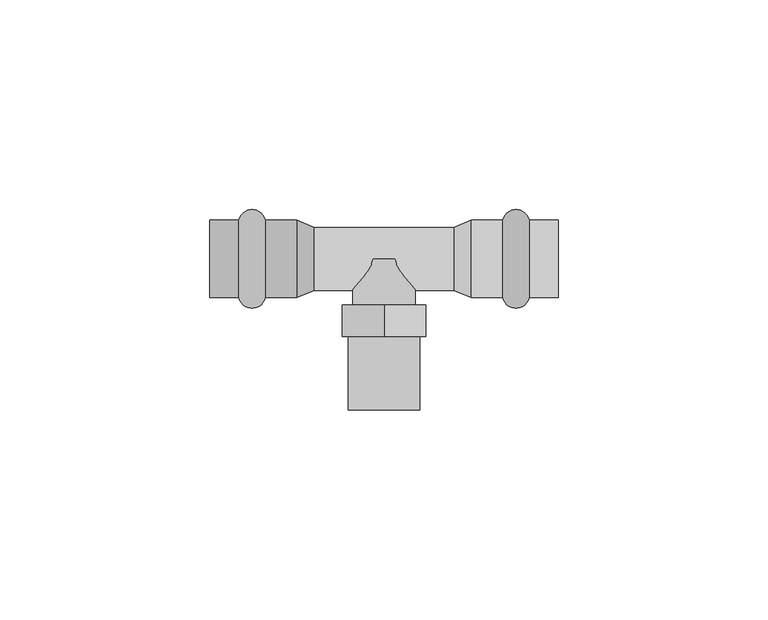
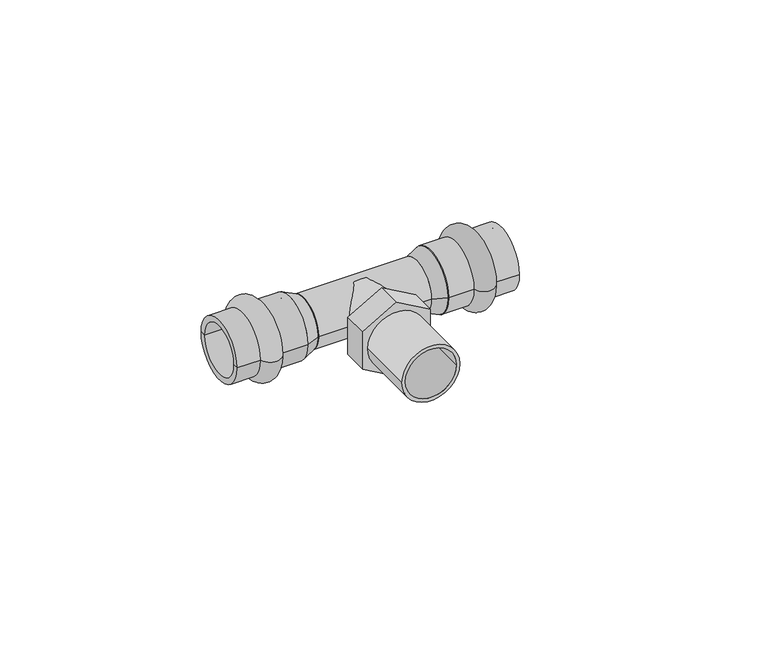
"""IFC4 building model written with IfcOpenShell, lengths in millimetres: pipe fitting geometry, VALTEC_VTi.933.I_Тройник с переходом на наружную  резьбу нержавеющая сталь : VTi.933.I."""

from ifc_helpers import new_model, si_unit, point, frame, origin, origin_2d, place, context, project, spatial, polyline, circle_curve, ellipse_curve, trimmed, segment, composite_curve, outline, extrude, source, transform, mapped, element, save
from ifc_brep_helpers import plane_surface, cylinder_surface, revolved_surface, advanced_brep


def pipe_fitting_f7734ca4(model_context):
    return source(origin(), model_context, "Body", "SolidModel", [
        advanced_brep(
        [(34.6122777, 9.25, 0.0), (34.6122777, -9.25, 0.0), (28.2877223, -9.25, 0.0), (28.2877223, 9.25, 0.0), (41.5, 9.25, 0.0), (41.5, -9.25, 0.0), (41.5, 7.5, 0.0), (41.5, -7.5, 0.0), (20.75, 7.5, 0.0), (20.75, -7.5, 0.0), (20.75, 9.25, 0.0), (20.75, -9.25, 0.0)],
        [
            (0, 1, circle_curve(frame((34.6122777, 0.0, 0.0), z_axis=(-1.0, 0.0, 0.0), x_axis=(0.0, -1.0, 0.0)), 9.25)),
            (1, 2, circle_curve(frame((31.45, -8.5, 0.0), z_axis=(0.0, 0.0, -1.0), x_axis=(-1.0, 0.0, 0.0)), 3.25)),
            (2, 3, circle_curve(frame((28.2877223, 0.0, 0.0), z_axis=(1.0, 0.0, 0.0), x_axis=(0.0, -1.0, 0.0)), 9.25)),
            (3, 0, circle_curve(frame((31.45, 8.5, 0.0), z_axis=(0.0, 0.0, -1.0), x_axis=(-1.0, 0.0, 0.0)), 3.25)),
            (1, 0, circle_curve(frame((34.6122777, 0.0, 0.0), z_axis=(-1.0, 0.0, 0.0), x_axis=(0.0, -1.0, 0.0)), 9.25)),
            (3, 2, circle_curve(frame((28.2877223, 0.0, 0.0), z_axis=(1.0, 0.0, 0.0), x_axis=(0.0, -1.0, 0.0)), 9.25)),
            (4, 5, circle_curve(frame((41.5, 0.0, 0.0), z_axis=(-1.0, 0.0, 0.0), x_axis=(0.0, -1.0, 0.0)), 9.25)),
            (5, 1),
            (0, 4),
            (5, 4, circle_curve(frame((41.5, 0.0, 0.0), z_axis=(-1.0, 0.0, 0.0), x_axis=(0.0, -1.0, 0.0)), 9.25)),
            (6, 7, circle_curve(frame((41.5, 0.0, 0.0), z_axis=(-1.0, 0.0, 0.0), x_axis=(0.0, -1.0, 0.0)), 7.5)),
            (7, 5),
            (4, 6),
            (7, 6, circle_curve(frame((41.5, 0.0, 0.0), z_axis=(-1.0, 0.0, 0.0), x_axis=(0.0, -1.0, 0.0)), 7.5)),
            (8, 9, circle_curve(frame((20.75, 0.0, 0.0), z_axis=(-1.0, 0.0, 0.0), x_axis=(0.0, -1.0, 0.0)), 7.5)),
            (9, 7),
            (6, 8),
            (9, 8, circle_curve(frame((20.75, 0.0, 0.0), z_axis=(-1.0, 0.0, 0.0), x_axis=(0.0, -1.0, 0.0)), 7.5)),
            (10, 11, circle_curve(frame((20.75, 0.0, 0.0), z_axis=(-1.0, 0.0, 0.0), x_axis=(0.0, -1.0, 0.0)), 9.25)),
            (11, 9),
            (8, 10),
            (11, 10, circle_curve(frame((20.75, 0.0, 0.0), z_axis=(-1.0, 0.0, 0.0), x_axis=(0.0, -1.0, 0.0)), 9.25)),
            (2, 11),
            (10, 3),
        ],
        [
            revolved_surface(trimmed(ellipse_curve(frame((31.45, -8.5, 0.0), z_axis=(0.0, 0.0, 1.0), x_axis=(-1.0, 0.0, 0.0)), 3.25, 3.25), [point((28.2877223, -9.25, 0.0))], [point((34.6122777, -9.25, 0.0))], True, "CARTESIAN"), (45.0364426, 0.0, 0.0), (1.0, 0.0, 0.0)),
            cylinder_surface(frame((45.0364426, 0.0, 0.0), z_axis=(1.0, 0.0, 0.0), x_axis=(0.0, -1.0, 0.0)), 9.25),
            plane_surface(frame((41.5, 0.0, 0.0), z_axis=(1.0, 0.0, 0.0), x_axis=(0.0, -1.0, 0.0))),
            revolved_surface(polyline([(41.5, -7.5, 0.0), (20.75, -7.5, 0.0)]), (45.0364426, 0.0, 0.0), (1.0, 0.0, 0.0)),
            plane_surface(frame((20.75, 0.0, 0.0), z_axis=(-1.0, 0.0, 0.0), x_axis=(0.0, -1.0, 0.0))),
        ],
        [
            (0, [[1, 2, 3, 4]]),
            (0, [[5, -4, 6, -2]]),
            (1, [[7, 8, -1, 9]]),
            (1, [[10, -9, -5, -8]]),
            (2, [[11, 12, -7, 13]]),
            (2, [[14, -13, -10, -12]]),
            (3, [[15, 16, -11, 17]]),
            (3, [[18, -17, -14, -16]]),
            (4, [[19, 20, -15, 21]]),
            (4, [[22, -21, -18, -20]]),
            (1, [[-3, 23, -19, 24]]),
            (1, [[-6, -24, -22, -23]]),
        ],
    ),
        advanced_brep(
        [(-34.6122777, -9.25, 0.0), (-34.6122777, 9.25, 0.0), (-28.2877223, 9.25, 0.0), (-28.2877223, -9.25, 0.0), (-41.5, -9.25, 0.0), (-41.5, 9.25, 0.0), (-41.5, -7.5, 0.0), (-41.5, 7.5, 0.0), (-20.75, -7.5, 0.0), (-20.75, 7.5, 0.0), (-20.75, -9.25, 0.0), (-20.75, 9.25, 0.0)],
        [
            (0, 1, circle_curve(frame((-34.6122777, 0.0, 0.0), z_axis=(1.0, 0.0, 0.0), x_axis=(0.0, 1.0, 0.0)), 9.25)),
            (1, 2, circle_curve(frame((-31.45, 8.5, 0.0), z_axis=(0.0, 0.0, -1.0), x_axis=(1.0, 0.0, 0.0)), 3.25)),
            (2, 3, circle_curve(frame((-28.2877223, 0.0, 0.0), z_axis=(-1.0, 0.0, 0.0), x_axis=(0.0, 1.0, 0.0)), 9.25)),
            (3, 0, circle_curve(frame((-31.45, -8.5, 0.0), z_axis=(0.0, 0.0, -1.0), x_axis=(1.0, 0.0, 0.0)), 3.25)),
            (1, 0, circle_curve(frame((-34.6122777, 0.0, 0.0), z_axis=(1.0, 0.0, 0.0), x_axis=(0.0, 1.0, 0.0)), 9.25)),
            (3, 2, circle_curve(frame((-28.2877223, 0.0, 0.0), z_axis=(-1.0, 0.0, 0.0), x_axis=(0.0, 1.0, 0.0)), 9.25)),
            (4, 5, circle_curve(frame((-41.5, 0.0, 0.0), z_axis=(1.0, 0.0, 0.0), x_axis=(0.0, 1.0, 0.0)), 9.25)),
            (5, 1),
            (0, 4),
            (5, 4, circle_curve(frame((-41.5, 0.0, 0.0), z_axis=(1.0, 0.0, 0.0), x_axis=(0.0, 1.0, 0.0)), 9.25)),
            (6, 7, circle_curve(frame((-41.5, 0.0, 0.0), z_axis=(1.0, 0.0, 0.0), x_axis=(0.0, 1.0, 0.0)), 7.5)),
            (7, 5),
            (4, 6),
            (7, 6, circle_curve(frame((-41.5, 0.0, 0.0), z_axis=(1.0, 0.0, 0.0), x_axis=(0.0, 1.0, 0.0)), 7.5)),
            (8, 9, circle_curve(frame((-20.75, 0.0, 0.0), z_axis=(1.0, 0.0, 0.0), x_axis=(0.0, 1.0, 0.0)), 7.5)),
            (9, 7),
            (6, 8),
            (9, 8, circle_curve(frame((-20.75, 0.0, 0.0), z_axis=(1.0, 0.0, 0.0), x_axis=(0.0, 1.0, 0.0)), 7.5)),
            (10, 11, circle_curve(frame((-20.75, 0.0, 0.0), z_axis=(1.0, 0.0, 0.0), x_axis=(0.0, 1.0, 0.0)), 9.25)),
            (11, 9),
            (8, 10),
            (11, 10, circle_curve(frame((-20.75, 0.0, 0.0), z_axis=(1.0, 0.0, 0.0), x_axis=(0.0, 1.0, 0.0)), 9.25)),
            (2, 11),
            (10, 3),
        ],
        [
            revolved_surface(trimmed(ellipse_curve(frame((-31.45, 8.5, 0.0), z_axis=(0.0, 0.0, 1.0), x_axis=(1.0, 0.0, 0.0)), 3.25, 3.25), [point((-28.2877223, 9.25, 0.0))], [point((-34.6122777, 9.25, 0.0))], True, "CARTESIAN"), (-45.0364426, 0.0, 0.0), (-1.0, 0.0, 0.0)),
            cylinder_surface(frame((-45.0364426, 0.0, 0.0), z_axis=(-1.0, 0.0, 0.0), x_axis=(0.0, 1.0, 0.0)), 9.25),
            plane_surface(frame((-41.5, 0.0, 0.0), z_axis=(-1.0, 0.0, 0.0), x_axis=(0.0, 1.0, 0.0))),
            revolved_surface(polyline([(-41.5, 7.5, 0.0), (-20.75, 7.5, 0.0)]), (-45.0364426, 0.0, 0.0), (-1.0, 0.0, 0.0)),
            plane_surface(frame((-20.75, 0.0, 0.0), z_axis=(1.0, 0.0, 0.0), x_axis=(0.0, 1.0, 0.0))),
        ],
        [
            (0, [[1, 2, 3, 4]]),
            (0, [[5, -4, 6, -2]]),
            (1, [[7, 8, -1, 9]]),
            (1, [[10, -9, -5, -8]]),
            (2, [[11, 12, -7, 13]]),
            (2, [[14, -13, -10, -12]]),
            (3, [[15, 16, -11, 17]]),
            (3, [[18, -17, -14, -16]]),
            (4, [[19, 20, -15, 21]]),
            (4, [[22, -21, -18, -20]]),
            (1, [[-3, 23, -19, 24]]),
            (1, [[-6, -24, -22, -23]]),
        ],
    ),
        extrude(outline(composite_curve([segment(trimmed(circle_curve(origin_2d(), 8.5), [point((0.0, -8.5))], [point((0.0, 8.5))], False, "CARTESIAN"), True, "CONTINUOUS"), segment(trimmed(circle_curve(origin_2d(), 8.5), [point((0.0, 8.5))], [point((0.0, -8.5))], False, "CARTESIAN"), True, "CONTINUOUS")], self_intersect=False), holes=[composite_curve([segment(trimmed(circle_curve(origin_2d(), 7.5), [point((0.0, -7.5))], [point((0.0, 7.5))], True, "CARTESIAN"), True, "CONTINUOUS"), segment(trimmed(circle_curve(origin_2d(), 7.5), [point((0.0, 7.5))], [point((0.0, -7.5))], True, "CARTESIAN"), True, "CONTINUOUS")], self_intersect=False)]), frame((0.0, -36.0, 0.0), z_axis=(0.0, 1.0, 0.0), x_axis=(0.0, 0.0, 1.0)), (0.0, 0.0, 1.0), 17.5),
        extrude(outline(polyline([(11.5470054, 0.0), (5.7735027, -10.0), (-5.7735027, -10.0), (-11.5470054, 0.0), (-5.7735027, 10.0), (5.7735027, 10.0), (11.5470054, 0.0)]), holes=[composite_curve([segment(trimmed(circle_curve(origin_2d(), 7.5), [point((0.0, -7.5))], [point((0.0, 7.5))], True, "CARTESIAN"), True, "CONTINUOUS"), segment(trimmed(circle_curve(origin_2d(), 7.5), [point((0.0, 7.5))], [point((0.0, -7.5))], True, "CARTESIAN"), True, "CONTINUOUS")], self_intersect=False)]), frame((0.0, -18.5, 0.0), z_axis=(0.0, 1.0, 0.0), x_axis=(0.0, 0.0, 1.0)), (0.0, 0.0, 1.0), 7.5),
        extrude(outline(composite_curve([segment(trimmed(circle_curve(origin_2d(), 7.5), [point((0.0, -7.5))], [point((0.0, 7.5))], False, "CARTESIAN"), True, "CONTINUOUS"), segment(trimmed(circle_curve(origin_2d(), 7.5), [point((0.0, 7.5))], [point((0.0, -7.5))], False, "CARTESIAN"), True, "CONTINUOUS")], self_intersect=False)), frame((0.0, -11.0, 0.0), z_axis=(0.0, 1.0, 0.0), x_axis=(0.0, 0.0, 1.0)), (0.0, 0.0, 1.0), 11.0),
        extrude(outline(composite_curve([segment(trimmed(circle_curve(origin_2d(), 7.5), [point((-7.5, 0.0))], [point((7.5, 0.0))], False, "CARTESIAN"), True, "CONTINUOUS"), segment(trimmed(circle_curve(origin_2d(), 7.5), [point((7.5, 0.0))], [point((-7.5, 0.0))], False, "CARTESIAN"), True, "CONTINUOUS")], self_intersect=False)), frame((-16.6, 0.0, 0.0), z_axis=(1.0, 0.0, 0.0), x_axis=(0.0, 1.0, 0.0)), (0.0, 0.0, 1.0), 33.2),
        advanced_brep(
        [(20.75, -9.25, 0.0), (20.75, 9.25, 0.0), (16.6, -7.5, 0.0), (16.6, 7.5, 0.0)],
        [
            (0, 1, circle_curve(frame((20.75, 0.0, 0.0), z_axis=(1.0, 0.0, 0.0), x_axis=(0.0, -1.0, 0.0)), 9.25)),
            (1, 0, circle_curve(frame((20.75, 0.0, 0.0), z_axis=(1.0, 0.0, 0.0), x_axis=(0.0, 1.0, 0.0)), 9.25)),
            (2, 3, circle_curve(frame((16.6, 0.0, 0.0), z_axis=(-1.0, 0.0, 0.0), x_axis=(0.0, 1.0, 0.0)), 7.5)),
            (3, 2, circle_curve(frame((16.6, 0.0, 0.0), z_axis=(-1.0, 0.0, 0.0), x_axis=(0.0, -1.0, 0.0)), 7.5)),
            (3, 1),
            (0, 2),
        ],
        [
            plane_surface(frame((20.75, 0.0, 0.0), z_axis=(1.0, 0.0, 0.0), x_axis=(0.0, 0.0, 1.0))),
            plane_surface(frame((16.6, 0.0, 0.0), z_axis=(-1.0, 0.0, 0.0), x_axis=(0.0, 0.0, 1.0))),
            revolved_surface(polyline([(16.6, 7.500000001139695, 0.0), (20.75, 9.25, 0.0)]), (-1.1857143, 0.0, 0.0), (1.0, 0.0, 0.0)),
            revolved_surface(polyline([(16.6, -7.500000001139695, 0.0), (20.75, -9.25, 0.0)]), (-1.1857143, 0.0, 0.0), (1.0, 0.0, 0.0)),
        ],
        [
            (0, [[1, 2]]),
            (1, [[3, 4]]),
            (2, [[-4, 5, -1, 6]]),
            (3, [[-3, -6, -2, -5]]),
        ],
    ),
        advanced_brep(
        [(-20.75, -9.25, 0.0), (-20.75, 9.25, 0.0), (-16.6, -7.5, 0.0), (-16.6, 7.5, 0.0)],
        [
            (0, 1, circle_curve(frame((-20.75, 0.0, 0.0), z_axis=(-1.0, 0.0, 0.0), x_axis=(0.0, -1.0, 0.0)), 9.25)),
            (1, 0, circle_curve(frame((-20.75, 0.0, 0.0), z_axis=(-1.0, 0.0, 0.0), x_axis=(0.0, 1.0, 0.0)), 9.25)),
            (2, 3, circle_curve(frame((-16.6, 0.0, 0.0), z_axis=(1.0, 0.0, 0.0), x_axis=(0.0, 1.0, 0.0)), 7.5)),
            (3, 2, circle_curve(frame((-16.6, 0.0, 0.0), z_axis=(1.0, 0.0, 0.0), x_axis=(0.0, -1.0, 0.0)), 7.5)),
            (2, 0),
            (1, 3),
        ],
        [
            plane_surface(frame((-20.75, 0.0, 0.0), z_axis=(-1.0, 0.0, 0.0), x_axis=(0.0, 0.0, -1.0))),
            plane_surface(frame((-16.6, 0.0, 0.0), z_axis=(1.0, 0.0, 0.0), x_axis=(0.0, 0.0, -1.0))),
            revolved_surface(polyline([(-16.6, -7.500000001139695, 0.0), (-20.75, -9.25, 0.0)]), (1.1857143, 0.0, 0.0), (-1.0, 0.0, 0.0)),
            revolved_surface(polyline([(-16.6, 7.500000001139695, 0.0), (-20.75, 9.25, 0.0)]), (1.1857143, 0.0, 0.0), (-1.0, 0.0, 0.0)),
        ],
        [
            (0, [[1, 2]]),
            (1, [[3, 4]]),
            (2, [[-3, 5, -2, 6]]),
            (3, [[-4, -6, -1, -5]]),
        ],
    ),
    ])


if __name__ == "__main__":
    model = new_model("IFC4")
    model_context = context("Model", 3, world=origin())
    ifc_project = project(units=[si_unit("LENGTHUNIT", "METRE", prefix="MILLI")], contexts=[model_context])
    site = spatial("IfcSite", under=ifc_project)
    building = spatial("IfcBuilding", under=site)
    placement = place(None, origin())
    pipe_fitting_shape = pipe_fitting_f7734ca4(model_context)
    element("IfcPipeFitting", 1, ObjectType="VALTEC_VTi.933.I_Тройник с переходом на наружную  резьбу нержавеющая сталь : VTi.933.I", at=placement, inside=building, context=model_context, shape_type="MappedRepresentation", body=[
        mapped(pipe_fitting_shape, transform((0.0, 0.0, 0.0), x_axis=(1.0, 0.0, 0.0), y_axis=(0.0, 1.0, 0.0), z_axis=(0.0, 0.0, 1.0))),
    ])
    save(model, "model.ifc")
